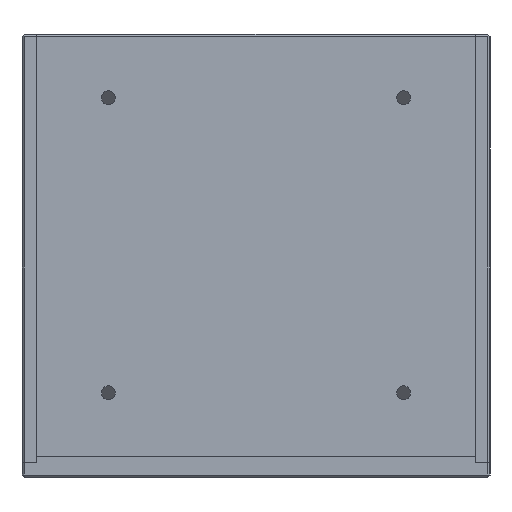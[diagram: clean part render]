
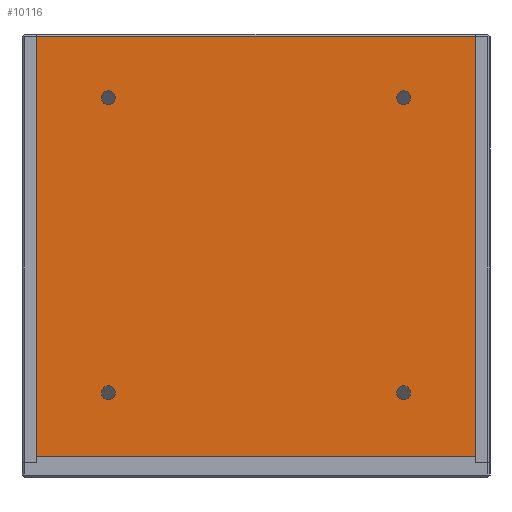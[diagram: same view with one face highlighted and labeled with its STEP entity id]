
A CAD part, left-side view. The second image highlights one B-rep face of the part: STEP entity #10116.
In plain terms, the highlighted planar face has unit normal (-1, 0, 0).
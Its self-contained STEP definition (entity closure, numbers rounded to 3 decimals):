
#55 = EDGE_LOOP ( 'NONE', ( #18168 ) ) ;
#280 = DIRECTION ( 'NONE',  ( 0., -1., 0. ) ) ;
#363 = EDGE_LOOP ( 'NONE', ( #416, #5318, #12075, #9284 ) ) ;
#416 = ORIENTED_EDGE ( 'NONE', *, *, #13786, .T. ) ;
#530 = DIRECTION ( 'NONE',  ( -1., 0., 0. ) ) ;
#712 = DIRECTION ( 'NONE',  ( -1., 0., 0. ) ) ;
#900 = PLANE ( 'NONE',  #3701 ) ;
#1090 = CARTESIAN_POINT ( 'NONE',  ( -67., 52., 104.5 ) ) ;
#1597 = LINE ( 'NONE', #12181, #18557 ) ;
#1945 = DIRECTION ( 'NONE',  ( 0., 0., 1. ) ) ;
#2545 = FACE_OUTER_BOUND ( 'NONE', #363, .T. ) ;
#2660 = VERTEX_POINT ( 'NONE', #9474 ) ;
#2815 = DIRECTION ( 'NONE',  ( -1., 0., 0. ) ) ;
#3184 = ORIENTED_EDGE ( 'NONE', *, *, #5102, .F. ) ;
#3351 = AXIS2_PLACEMENT_3D ( 'NONE', #15114, #530, #13609 ) ;
#3701 = AXIS2_PLACEMENT_3D ( 'NONE', #9541, #3731, #16896 ) ;
#3731 = DIRECTION ( 'NONE',  ( -1., 0., 0. ) ) ;
#3983 = CARTESIAN_POINT ( 'NONE',  ( -67., -33.35, 20. ) ) ;
#4483 = VERTEX_POINT ( 'NONE', #1090 ) ;
#4813 = VERTEX_POINT ( 'NONE', #12744 ) ;
#5102 = EDGE_CURVE ( 'NONE', #13716, #13716, #7085, .T. ) ;
#5274 = VECTOR ( 'NONE', #15632, 1000. ) ;
#5281 = VERTEX_POINT ( 'NONE', #12034 ) ;
#5318 = ORIENTED_EDGE ( 'NONE', *, *, #8996, .T. ) ;
#5353 = CARTESIAN_POINT ( 'NONE',  ( -67., -35., 90. ) ) ;
#6190 = CARTESIAN_POINT ( 'NONE',  ( -67., -52., 104.5 ) ) ;
#6510 = ORIENTED_EDGE ( 'NONE', *, *, #14290, .F. ) ;
#6676 = DIRECTION ( 'NONE',  ( 0., 1., 0. ) ) ;
#6833 = FACE_BOUND ( 'NONE', #55, .T. ) ;
#7055 = AXIS2_PLACEMENT_3D ( 'NONE', #11492, #2815, #18770 ) ;
#7085 = CIRCLE ( 'NONE', #7055, 1.65 ) ;
#8563 = AXIS2_PLACEMENT_3D ( 'NONE', #13721, #712, #16586 ) ;
#8996 = EDGE_CURVE ( 'NONE', #14878, #4483, #16837, .T. ) ;
#9055 = CARTESIAN_POINT ( 'NONE',  ( -67., -52., 5. ) ) ;
#9284 = ORIENTED_EDGE ( 'NONE', *, *, #17798, .T. ) ;
#9474 = CARTESIAN_POINT ( 'NONE',  ( -67., -52., 5. ) ) ;
#9541 = CARTESIAN_POINT ( 'NONE',  ( -67., 0., 55. ) ) ;
#10116 = ADVANCED_FACE ( 'NONE', ( #12077, #13673, #18399, #6833, #2545 ), #900, .T. ) ;
#11108 = CARTESIAN_POINT ( 'NONE',  ( -67., 52., 104.5 ) ) ;
#11117 = EDGE_CURVE ( 'NONE', #15275, #15275, #14044, .T. ) ;
#11492 = CARTESIAN_POINT ( 'NONE',  ( -67., 35., 90. ) ) ;
#12034 = CARTESIAN_POINT ( 'NONE',  ( -67., 52., 5. ) ) ;
#12075 = ORIENTED_EDGE ( 'NONE', *, *, #15062, .T. ) ;
#12077 = FACE_BOUND ( 'NONE', #17923, .T. ) ;
#12096 = CARTESIAN_POINT ( 'NONE',  ( -67., -52., 5. ) ) ;
#12181 = CARTESIAN_POINT ( 'NONE',  ( -67., 52., 5. ) ) ;
#12300 = DIRECTION ( 'NONE',  ( 0., 0., -1. ) ) ;
#12744 = CARTESIAN_POINT ( 'NONE',  ( -67., -33.35, 90. ) ) ;
#12749 = CIRCLE ( 'NONE', #3351, 1.65 ) ;
#12807 = CARTESIAN_POINT ( 'NONE',  ( -67., 36.65, 90. ) ) ;
#12944 = AXIS2_PLACEMENT_3D ( 'NONE', #5353, #16935, #6676 ) ;
#13609 = DIRECTION ( 'NONE',  ( 0., 1., 0. ) ) ;
#13673 = FACE_BOUND ( 'NONE', #16115, .T. ) ;
#13716 = VERTEX_POINT ( 'NONE', #12807 ) ;
#13721 = CARTESIAN_POINT ( 'NONE',  ( -67., 35., 20. ) ) ;
#13786 = EDGE_CURVE ( 'NONE', #2660, #14878, #14390, .T. ) ;
#14044 = CIRCLE ( 'NONE', #8563, 1.65 ) ;
#14290 = EDGE_CURVE ( 'NONE', #15710, #15710, #12749, .T. ) ;
#14390 = LINE ( 'NONE', #12096, #14616 ) ;
#14483 = LINE ( 'NONE', #9055, #17167 ) ;
#14616 = VECTOR ( 'NONE', #1945, 1000. ) ;
#14878 = VERTEX_POINT ( 'NONE', #6190 ) ;
#14945 = ORIENTED_EDGE ( 'NONE', *, *, #15928, .F. ) ;
#15062 = EDGE_CURVE ( 'NONE', #4483, #5281, #1597, .T. ) ;
#15114 = CARTESIAN_POINT ( 'NONE',  ( -67., -35., 20. ) ) ;
#15275 = VERTEX_POINT ( 'NONE', #17144 ) ;
#15632 = DIRECTION ( 'NONE',  ( 0., 1., 0. ) ) ;
#15710 = VERTEX_POINT ( 'NONE', #3983 ) ;
#15928 = EDGE_CURVE ( 'NONE', #4813, #4813, #16827, .T. ) ;
#16115 = EDGE_LOOP ( 'NONE', ( #14945 ) ) ;
#16586 = DIRECTION ( 'NONE',  ( 0., 1., 0. ) ) ;
#16827 = CIRCLE ( 'NONE', #12944, 1.65 ) ;
#16837 = LINE ( 'NONE', #11108, #5274 ) ;
#16896 = DIRECTION ( 'NONE',  ( 0., 1., 0. ) ) ;
#16928 = EDGE_LOOP ( 'NONE', ( #3184 ) ) ;
#16935 = DIRECTION ( 'NONE',  ( -1., 0., 0. ) ) ;
#17144 = CARTESIAN_POINT ( 'NONE',  ( -67., 36.65, 20. ) ) ;
#17167 = VECTOR ( 'NONE', #280, 1000. ) ;
#17798 = EDGE_CURVE ( 'NONE', #5281, #2660, #14483, .T. ) ;
#17923 = EDGE_LOOP ( 'NONE', ( #6510 ) ) ;
#18168 = ORIENTED_EDGE ( 'NONE', *, *, #11117, .F. ) ;
#18399 = FACE_BOUND ( 'NONE', #16928, .T. ) ;
#18557 = VECTOR ( 'NONE', #12300, 1000. ) ;
#18770 = DIRECTION ( 'NONE',  ( 0., 1., 0. ) ) ;
